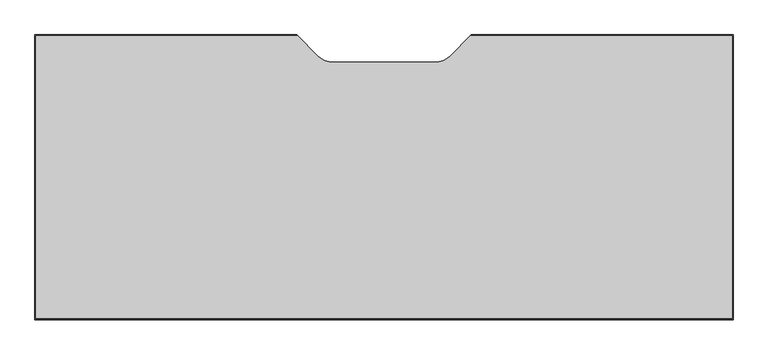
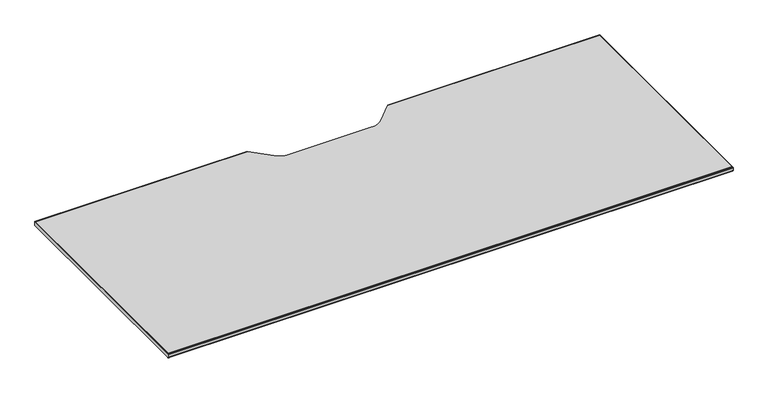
"""IFC4 building model written with IfcOpenShell, lengths in millimetres: furniture geometry, Steelcase Turnstone - Bivi - Table - Table Top : 30D x 72W."""

from ifc_helpers import new_model, si_unit, point, frame, frame_2d, origin, place, context, project, spatial, polyline, circle_curve, trimmed, segment, composite_curve, outline, extrude, source, transform, mapped, element, save
from ifc_brep_helpers import plane_surface, cylinder_surface, advanced_brep


def furniture_8d4970fa(model_context):
    return source(origin(), model_context, "Body", "SolidModel", [
        advanced_brep(
        [(514.3499939, 727.0750061, 723.566625), (515.3499939, 726.0750061, 723.566625), (515.3499939, 726.0750061, 710.485625), (514.3499939, 727.0750061, 710.485625), (957.8500067, 726.0750061, 723.566625), (958.8500061, 727.0750061, 723.566625), (958.8500061, 727.0750061, 710.485625), (957.8500067, 726.0750061, 710.485625), (1625.6, 727.0750061, 723.566625), (1624.6, 726.0750061, 723.566625), (1624.6, 3.0000061, 723.566625), (-151.4, 3.0000061, 723.566625), (-151.4, 726.0750061, 723.566625), (-152.4, 727.0750061, 723.566625), (-152.4, 2.0320061, 723.566625), (1625.6, 2.0320061, 723.566625), (1624.6, 726.0750061, 710.485625), (1624.6, 3.0000061, 710.485625), (1625.6, 727.0750061, 710.485625), (1625.6, 2.0320061, 710.485625), (-152.4, 2.0320061, 710.485625), (-152.4, 727.0750061, 710.485625), (-151.4, 726.0750061, 710.485625), (-151.4, 3.0000061, 710.485625), (1625.6, 6.1e-06, 721.534625), (1625.6, 6.1e-06, 712.517625), (-152.4, 6.1e-06, 712.517625), (-152.4, 6.1e-06, 721.534625)],
        [
            (0, 1),
            (1, 2),
            (2, 3),
            (3, 0),
            (4, 5),
            (5, 6),
            (6, 7),
            (7, 4),
            (8, 5),
            (4, 9),
            (9, 10),
            (10, 11),
            (11, 12),
            (12, 1),
            (0, 13),
            (13, 14),
            (14, 15),
            (15, 8),
            (9, 16),
            (16, 17),
            (17, 10),
            (16, 7),
            (6, 18),
            (18, 19),
            (19, 20),
            (20, 21),
            (21, 3),
            (2, 22),
            (22, 23),
            (23, 17),
            (15, 24, circle_curve(frame((1625.6, 2.0320061, 721.534625), z_axis=(1.0, 0.0, 0.0), x_axis=(0.0, 1.0, 0.0)), 2.032)),
            (24, 25),
            (25, 19, circle_curve(frame((1625.6, 2.0320061, 712.517625), z_axis=(1.0, 0.0, 0.0), x_axis=(0.0, 1.0, 0.0)), 2.032)),
            (18, 8),
            (12, 22),
            (21, 13),
            (11, 23),
            (20, 26, circle_curve(frame((-152.4, 2.0320061, 712.517625), z_axis=(-1.0, 0.0, 0.0), x_axis=(0.0, 1.0, 0.0)), 2.032)),
            (26, 27),
            (27, 14, circle_curve(frame((-152.4, 2.0320061, 721.534625), z_axis=(-1.0, 0.0, 0.0), x_axis=(0.0, 1.0, 0.0)), 2.032)),
            (25, 26),
            (24, 27),
        ],
        [
            plane_surface(frame((514.3499939, 727.0750061, 724.4389999), z_axis=(0.7071067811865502, 0.7071067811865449, 0.0), x_axis=(0.0, 0.0, -1.0))),
            plane_surface(frame((904.6973766, 672.9223408, 724.4389999), z_axis=(-0.7071070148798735, 0.7071065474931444, 0.0), x_axis=(0.0, 0.0, -1.0))),
            plane_surface(frame((1625.6, 3.0000061, 723.566625), z_axis=(0.0, 0.0, 1.0), x_axis=(0.0, 1.0, 0.0))),
            plane_surface(frame((1624.6, 3.0000061, 723.566625), z_axis=(-1.0, 0.0, 0.0), x_axis=(0.0, 1.0, 0.0))),
            plane_surface(frame((1624.6, 3.0000061, 710.485625), z_axis=(0.0, 0.0, -1.0), x_axis=(0.0, 1.0, 0.0))),
            plane_surface(frame((1625.6, 3.0000061, 710.485625), z_axis=(1.0, 0.0, 0.0), x_axis=(0.0, 1.0, 0.0))),
            plane_surface(frame((1624.6, 726.0750061, 723.566625), z_axis=(0.0, -1.0, 0.0), x_axis=(-1.0, 0.0, 0.0))),
            plane_surface(frame((1625.6, 727.0750061, 710.485625), z_axis=(0.0, 1.0, 0.0), x_axis=(-1.0, 0.0, 0.0))),
            plane_surface(frame((-151.4, 726.0750061, 723.566625), z_axis=(1.0, 0.0, 0.0), x_axis=(0.0, -1.0, 0.0))),
            plane_surface(frame((-152.4, 727.0750061, 710.485625), z_axis=(-1.0, 0.0, 0.0), x_axis=(0.0, -1.0, 0.0))),
            cylinder_surface(frame((-152.4, 2.0320061, 712.517625), z_axis=(-1.0, 0.0, 0.0), x_axis=(0.0, 1.0, 0.0)), 2.032),
            plane_surface(frame((-152.4, 6.1e-06, 712.517625), z_axis=(0.0, -1.0, 0.0), x_axis=(1.0, 0.0, 0.0))),
            cylinder_surface(frame((-152.4, 2.0320061, 721.534625), z_axis=(-1.0, 0.0, 0.0), x_axis=(0.0, 1.0, 0.0)), 2.032),
            plane_surface(frame((-152.4, 3.0000061, 723.566625), z_axis=(0.0, 1.0, 0.0), x_axis=(1.0, 0.0, 0.0))),
        ],
        [
            (0, [[1, 2, 3, 4]]),
            (1, [[5, 6, 7, 8]]),
            (2, [[9, -5, 10, 11, 12, 13, 14, -1, 15, 16, 17, 18]]),
            (3, [[-11, 19, 20, 21]]),
            (4, [[-20, 22, -7, 23, 24, 25, 26, 27, -3, 28, 29, 30]]),
            (5, [[-18, 31, 32, 33, -24, 34]]),
            (6, [[-19, -10, -8, -22]]),
            (6, [[35, -28, -2, -14]]),
            (7, [[-34, -23, -6, -9]]),
            (7, [[36, -15, -4, -27]]),
            (8, [[-13, 37, -29, -35]]),
            (9, [[-16, -36, -26, 38, 39, 40]]),
            (10, [[-38, -25, -33, 41]]),
            (11, [[-39, -41, -32, 42]]),
            (12, [[-40, -42, -31, -17]]),
            (13, [[-30, -37, -12, -21]]),
        ],
    ),
        extrude(outline(composite_curve([segment(polyline([(1624.6, 726.0750061), (1624.6, 3.0000061), (-151.4, 3.0000061), (-151.4, 726.0750061), (515.3499939, 726.0750061), (568.512149, 672.912851)]), True, "CONTINUOUS"), segment(trimmed(circle_curve(frame_2d((606.3859497, 710.7866517)), 53.5616426), [point((568.512149, 672.912851))], [point((606.3859497, 657.2250091))], True, "CARTESIAN"), True, "CONTINUOUS"), segment(polyline([(606.3859497, 657.2250091), (866.8006832, 657.2250091)]), True, "CONTINUOUS"), segment(trimmed(circle_curve(frame_2d((866.8006832, 710.8190091)), 53.594), [point((866.8006832, 657.2250091))], [point((904.6973766, 672.9223408))], True, "CARTESIAN"), True, "CONTINUOUS"), segment(polyline([(904.6973766, 672.9223408), (957.8500067, 726.0750061), (1624.6, 726.0750061)]), True, "CONTINUOUS")], self_intersect=False)), frame((0.0, 0.0, 710.485625), z_axis=(0.0, 0.0, 1.0), x_axis=(1.0, 0.0, 0.0)), (0.0, 0.0, 1.0), 13.081),
    ])


if __name__ == "__main__":
    model = new_model("IFC4")
    model_context = context("Model", 3, world=origin())
    ifc_project = project(units=[si_unit("LENGTHUNIT", "METRE", prefix="MILLI")], contexts=[model_context])
    site = spatial("IfcSite", under=ifc_project)
    building = spatial("IfcBuilding", under=site)
    placement = place(None, origin())
    furniture_shape = furniture_8d4970fa(model_context)
    element("IfcFurniture", 1, ObjectType="Steelcase Turnstone - Bivi - Table - Table Top : 30D x 72W", at=placement, inside=building, context=model_context, shape_type="MappedRepresentation", body=[
        mapped(furniture_shape, transform((0.0, 0.0, 0.0), x_axis=(1.0, 0.0, 0.0), y_axis=(0.0, 1.0, 0.0), z_axis=(0.0, 0.0, 1.0))),
    ])
    save(model, "model.ifc")
